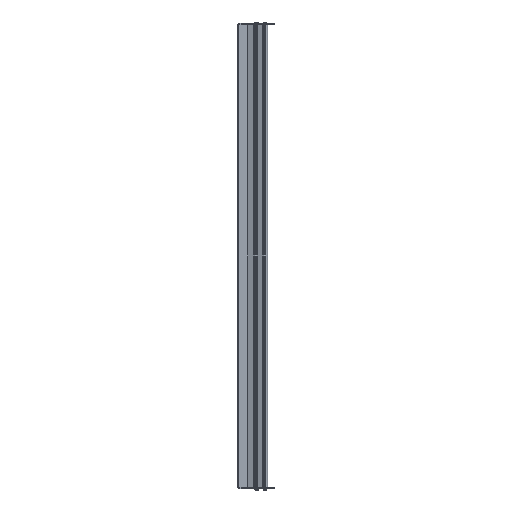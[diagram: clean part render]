
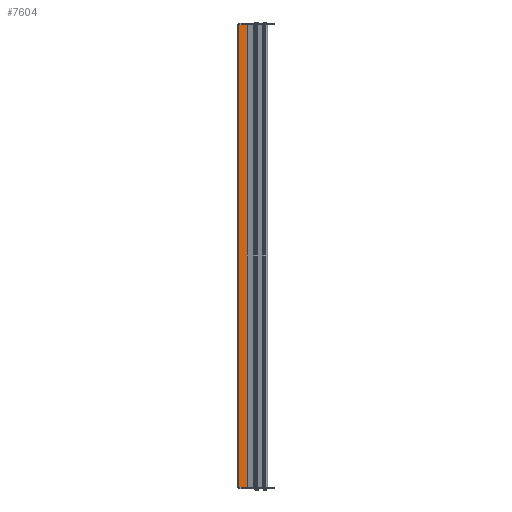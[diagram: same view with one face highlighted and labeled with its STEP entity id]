
A CAD part, left-side view. The second image highlights one B-rep face of the part: STEP entity #7604.
In plain terms, the highlighted planar face has unit normal (-1, 0, 0) as drawn and (1, 0, 0) by its records, which use the part's own axes.
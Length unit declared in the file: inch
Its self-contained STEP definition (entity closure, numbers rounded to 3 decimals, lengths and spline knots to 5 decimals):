
#6490=DIRECTION('',(0.,0.,1.));
#6491=VECTOR('',#6490,46.236);
#6492=CARTESIAN_POINT('',(0.048,0.01693,-23.118));
#6493=LINE('',#6492,#6491);
#6520=DIRECTION('',(0.,-1.,0.));
#6521=VECTOR('',#6520,0.88707);
#6522=CARTESIAN_POINT('',(0.048,0.904,-23.118));
#6523=LINE('',#6522,#6521);
#6524=DIRECTION('',(0.,-1.,0.));
#6525=VECTOR('',#6524,0.88707);
#6526=CARTESIAN_POINT('',(0.048,0.904,23.118));
#6527=LINE('',#6526,#6525);
#6528=DIRECTION('',(0.,0.,-1.));
#6529=VECTOR('',#6528,46.236);
#6530=CARTESIAN_POINT('',(0.048,0.904,23.118));
#6531=LINE('',#6530,#6529);
#6982=CARTESIAN_POINT('',(0.048,0.01693,-23.118));
#6984=VERTEX_POINT('',#6982);
#7047=CARTESIAN_POINT('',(0.048,0.904,23.118));
#7049=VERTEX_POINT('',#7047);
#7096=CARTESIAN_POINT('',(0.048,0.904,-23.118));
#7098=VERTEX_POINT('',#7096);
#7176=CARTESIAN_POINT('',(0.048,0.01693,23.118));
#7177=VERTEX_POINT('',#7176);
#7592=CARTESIAN_POINT('',(0.048,0.,23.118));
#7593=DIRECTION('',(-1.,0.,0.));
#7594=DIRECTION('',(0.,0.,1.));
#7595=AXIS2_PLACEMENT_3D('',#7592,#7593,#7594);
#7596=PLANE('',#7595);
#7597=ORIENTED_EDGE('',*,*,#7585,.T.);
#7598=ORIENTED_EDGE('',*,*,#7528,.T.);
#7599=ORIENTED_EDGE('',*,*,#7557,.F.);
#7601=ORIENTED_EDGE('',*,*,#7600,.T.);
#7602=EDGE_LOOP('',(#7597,#7598,#7599,#7601));
#7603=FACE_OUTER_BOUND('',#7602,.F.);
#7528=EDGE_CURVE('',#6984,#7177,#6493,.T.);
#7557=EDGE_CURVE('',#7049,#7177,#6527,.T.);
#7585=EDGE_CURVE('',#7098,#6984,#6523,.T.);
#7600=EDGE_CURVE('',#7049,#7098,#6531,.T.);
#7604=ADVANCED_FACE('',(#7603),#7596,.F.);
